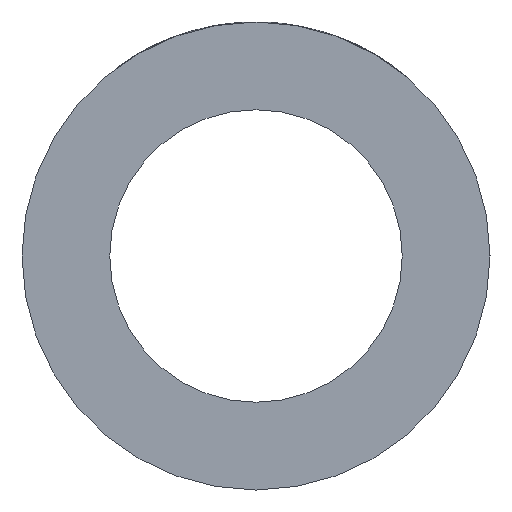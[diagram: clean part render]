
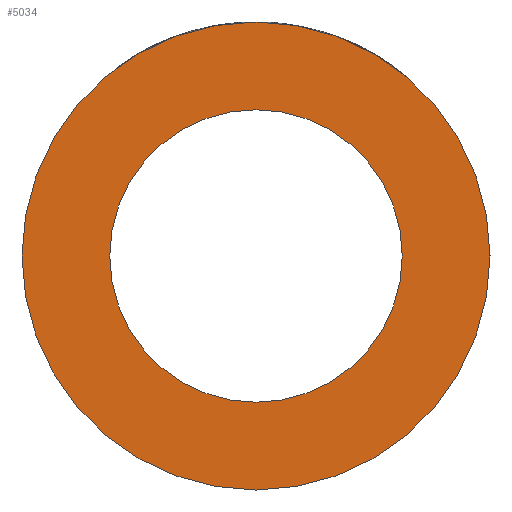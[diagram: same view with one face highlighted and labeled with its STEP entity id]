
A CAD part, left-side view. The second image highlights one B-rep face of the part: STEP entity #5034.
In plain terms, the highlighted planar face has unit normal (-1, 0, 0).
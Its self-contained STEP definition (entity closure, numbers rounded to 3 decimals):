
#117=PLANE('',#5424);
#1179=CIRCLE('',#5425,40.);
#1180=CIRCLE('',#5426,25.);
#1494=ORIENTED_EDGE('',*,*,#3011,.F.);
#1495=ORIENTED_EDGE('',*,*,#3012,.T.);
#3011=EDGE_CURVE('',#3770,#3770,#1179,.T.);
#3012=EDGE_CURVE('',#3771,#3771,#1180,.T.);
#3770=VERTEX_POINT('',#8169);
#3771=VERTEX_POINT('',#8171);
#4284=EDGE_LOOP('',(#1494));
#4285=EDGE_LOOP('',(#1495));
#4653=FACE_BOUND('',#4284,.T.);
#4654=FACE_BOUND('',#4285,.T.);
#5034=ADVANCED_FACE('',(#4653,#4654),#117,.F.);
#5424=AXIS2_PLACEMENT_3D('',#8167,#5939,#5940);
#5425=AXIS2_PLACEMENT_3D('',#8168,#5941,#5942);
#5426=AXIS2_PLACEMENT_3D('',#8170,#5943,#5944);
#5939=DIRECTION('',(1.,0.,0.));
#5940=DIRECTION('',(0.,0.,-1.));
#5941=DIRECTION('',(1.,0.,0.));
#5942=DIRECTION('',(0.,0.,-1.));
#5943=DIRECTION('',(1.,0.,0.));
#5944=DIRECTION('',(0.,0.,-1.));
#8167=CARTESIAN_POINT('',(-96.,0.,0.));
#8168=CARTESIAN_POINT('',(-96.,0.,0.));
#8169=CARTESIAN_POINT('',(-96.,0.,-40.));
#8170=CARTESIAN_POINT('',(-96.,0.,0.));
#8171=CARTESIAN_POINT('',(-96.,0.,-25.));
